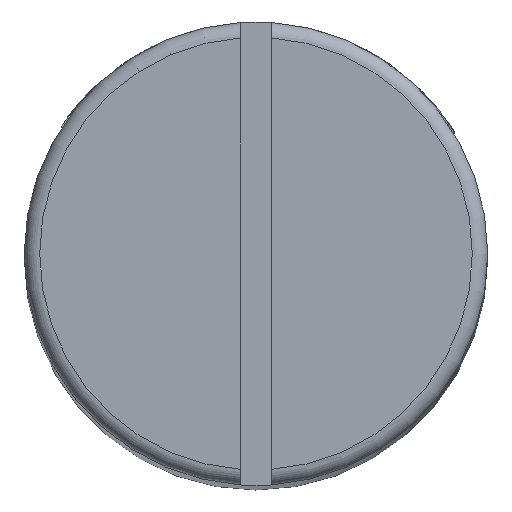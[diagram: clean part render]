
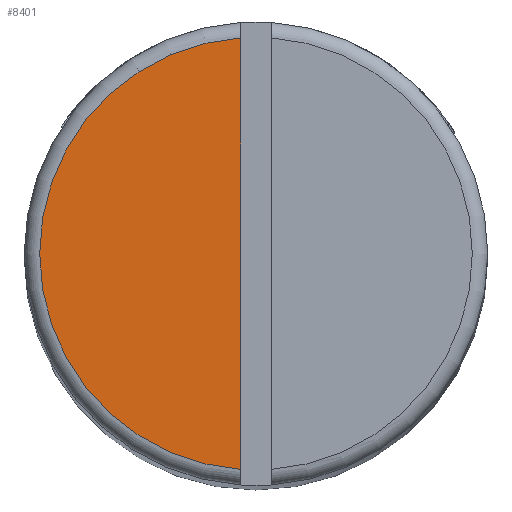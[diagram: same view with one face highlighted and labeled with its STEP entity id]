
A CAD part, top view. The second image highlights one B-rep face of the part: STEP entity #8401.
In plain terms, the highlighted planar face has unit normal (0, 0, 1).
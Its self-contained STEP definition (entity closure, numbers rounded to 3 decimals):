
#2086=CARTESIAN_POINT('',(0.,0.,85.));
#2087=DIRECTION('',(0.,0.,1.));
#2088=DIRECTION('',(-0.071,0.997,0.));
#2089=AXIS2_PLACEMENT_3D('',#2086,#2087,#2088);
#2091=DIRECTION('',(0.,1.,0.));
#2092=VECTOR('',#2091,27.928);
#2093=CARTESIAN_POINT('',(-1.,-13.964,85.));
#2094=LINE('',#2093,#2092);
#2099=CARTESIAN_POINT('',(-1.,-13.964,85.));
#2117=CARTESIAN_POINT('',(-1.,13.964,85.));
#6365=VERTEX_POINT('',#2099);
#6370=VERTEX_POINT('',#2117);
#8391=CARTESIAN_POINT('',(0.,0.,85.));
#8392=DIRECTION('',(0.,0.,1.));
#8393=DIRECTION('',(1.,0.,0.));
#8394=AXIS2_PLACEMENT_3D('',#8391,#8392,#8393);
#8395=PLANE('',#8394);
#8396=ORIENTED_EDGE('',*,*,#8379,.F.);
#8398=ORIENTED_EDGE('',*,*,#8397,.F.);
#8399=EDGE_LOOP('',(#8396,#8398));
#8400=FACE_OUTER_BOUND('',#8399,.F.);
#8401=ADVANCED_FACE('',(#8400),#8395,.T.);
#2090=CIRCLE('',#2089,14.);
#8379=EDGE_CURVE('',#6370,#6365,#2090,.T.);
#8397=EDGE_CURVE('',#6365,#6370,#2094,.T.);
